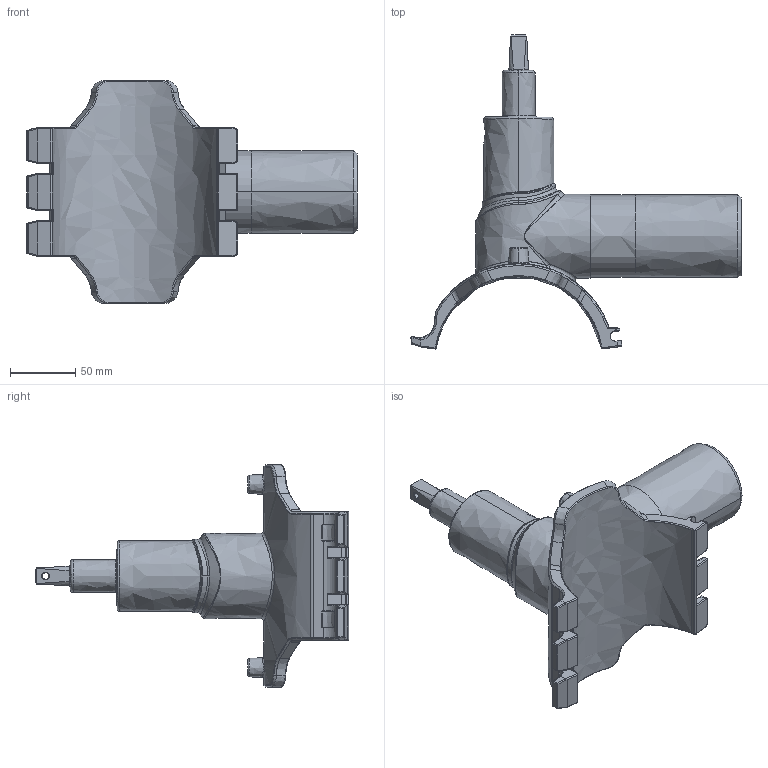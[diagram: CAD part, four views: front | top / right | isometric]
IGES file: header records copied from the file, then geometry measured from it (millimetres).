
Start section:  PTC IGES file: dav2_d125_63_01.igs
Global section: file name: dav2_d125_63_01.igs; native system: Creo Parametric by PTC Inc.; preprocessor: 2019030; author: mikulicp; organization: Unknown; date: 20210622.135703; units: millimetre
Bounding box: 252.39 x 239.78 x 170 mm (x, y, z)
Surface area: 130806.7 mm2 (no closed solid volume)
Topology: 0 solids, 0 shells, 575 faces, 2790 edges, 2784 vertices
Faces by surface type: bspline 575
